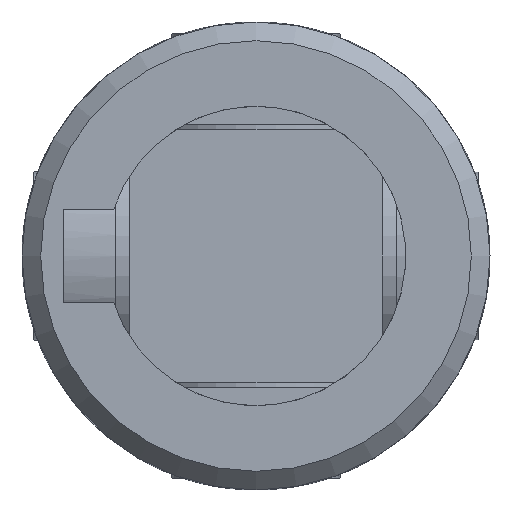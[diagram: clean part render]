
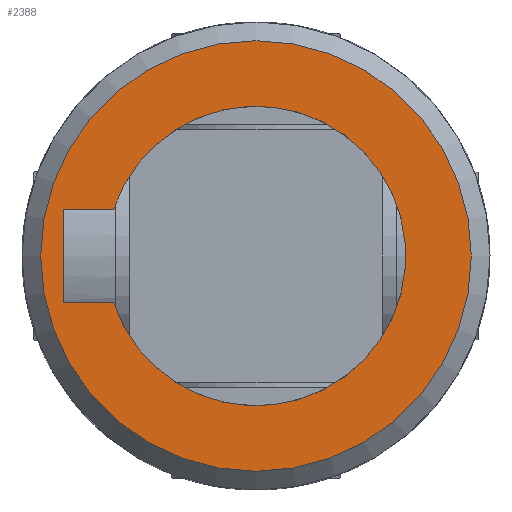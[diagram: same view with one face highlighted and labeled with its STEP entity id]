
A CAD part, front view. The second image highlights one B-rep face of the part: STEP entity #2388.
In plain terms, the highlighted planar face has unit normal (0, -1, 0).
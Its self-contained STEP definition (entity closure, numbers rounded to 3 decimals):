
#124=LINE('',#4301,#203);
#126=LINE('',#4307,#205);
#133=LINE('',#4354,#212);
#203=VECTOR('',#3068,5.);
#205=VECTOR('',#3074,2.701);
#212=VECTOR('',#3089,2.701);
#284=PLANE('',#2619);
#512=FACE_BOUND('',#799,.T.);
#615=FACE_OUTER_BOUND('',#798,.T.);
#798=EDGE_LOOP('',(#1993));
#799=EDGE_LOOP('',(#1994,#1995,#1996,#1997));
#939=CIRCLE('',#2603,8.);
#948=CIRCLE('',#2617,11.5);
#1123=VERTEX_POINT('',#4298);
#1124=VERTEX_POINT('',#4300);
#1126=VERTEX_POINT('',#4306);
#1128=VERTEX_POINT('',#4320);
#1142=VERTEX_POINT('',#4399);
#1413=EDGE_CURVE('',#1124,#1123,#124,.T.);
#1416=EDGE_CURVE('',#1126,#1124,#126,.T.);
#1420=EDGE_CURVE('',#1128,#1126,#939,.T.);
#1428=EDGE_CURVE('',#1123,#1128,#133,.T.);
#1441=EDGE_CURVE('',#1142,#1142,#948,.T.);
#1993=ORIENTED_EDGE('',*,*,#1441,.F.);
#1994=ORIENTED_EDGE('',*,*,#1413,.T.);
#1995=ORIENTED_EDGE('',*,*,#1428,.T.);
#1996=ORIENTED_EDGE('',*,*,#1420,.T.);
#1997=ORIENTED_EDGE('',*,*,#1416,.T.);
#2388=ADVANCED_FACE('',(#615,#512),#284,.F.);
#2603=AXIS2_PLACEMENT_3D('',#4321,#3079,#3080);
#2617=AXIS2_PLACEMENT_3D('',#4400,#3112,#3113);
#2619=AXIS2_PLACEMENT_3D('',#4616,#3120,#3121);
#3068=DIRECTION('',(-1.,0.,0.));
#3074=DIRECTION('',(0.,0.,-1.));
#3079=DIRECTION('center_axis',(0.,1.,0.));
#3080=DIRECTION('ref_axis',(0.312,0.,-0.95));
#3089=DIRECTION('',(0.,0.,1.));
#3112=DIRECTION('center_axis',(0.,1.,0.));
#3113=DIRECTION('ref_axis',(1.,0.,0.));
#3120=DIRECTION('center_axis',(0.,1.,0.));
#3121=DIRECTION('ref_axis',(0.,0.,1.));
#4298=CARTESIAN_POINT('',(-2.5,-43.5,-10.3));
#4300=CARTESIAN_POINT('',(2.5,-43.5,-10.3));
#4301=CARTESIAN_POINT('',(1.25,-43.5,-10.3));
#4306=CARTESIAN_POINT('',(2.5,-43.5,-7.599));
#4307=CARTESIAN_POINT('',(2.5,-43.5,-3.8));
#4320=CARTESIAN_POINT('',(-2.5,-43.5,-7.599));
#4321=CARTESIAN_POINT('Origin',(0.,-43.5,0.));
#4354=CARTESIAN_POINT('',(-2.5,-43.5,-5.15));
#4399=CARTESIAN_POINT('',(-11.5,-43.5,0.));
#4400=CARTESIAN_POINT('Origin',(0.,-43.5,0.));
#4616=CARTESIAN_POINT('Origin',(0.,-43.5,0.));
